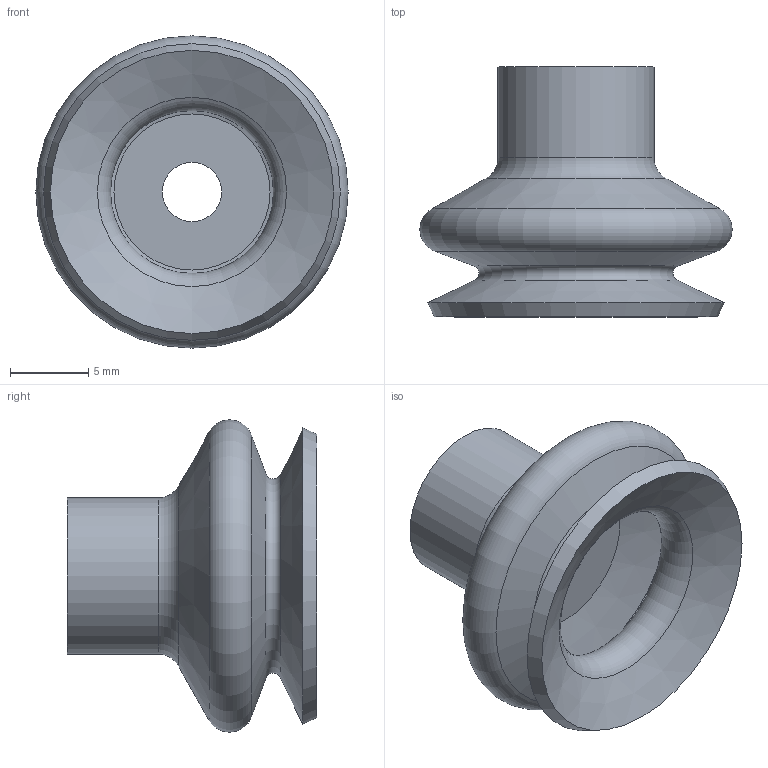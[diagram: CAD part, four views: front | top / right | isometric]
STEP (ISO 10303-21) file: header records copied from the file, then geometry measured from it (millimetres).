
FILE_DESCRIPTION (( 'STEP AP214' ), '1' );
FILE_NAME ('SB20.STEP', '2020-11-04T15:14:22', ( '' ), ( '' ), 'SwSTEP 2.0', 'SolidWorks 2018', '' );
FILE_SCHEMA (( 'AUTOMOTIVE_DESIGN' ));
Length unit declared in the file: inch
Products named in the file (1): SB20
Bounding box: 20 x 16 x 20 mm (x, y, z)
Volume: 1402.8 mm3; surface area: 1910 mm2
Topology: 1 solids, 1 shells, 16 faces, 30 edges, 16 vertices
Faces by surface type: cone 7, torus 5, plane 2, cylinder 2
Full cylindrical faces by diameter (mm): 3.8 x1, 10 x1
Entity records: 368 total; most frequent: DIRECTION 66, CARTESIAN_POINT 49, AXIS2_PLACEMENT_3D 33, EDGE_LOOP 32, ORIENTED_EDGE 32, FACE_OUTER_BOUND 23, CIRCLE 16, EDGE_CURVE 16
